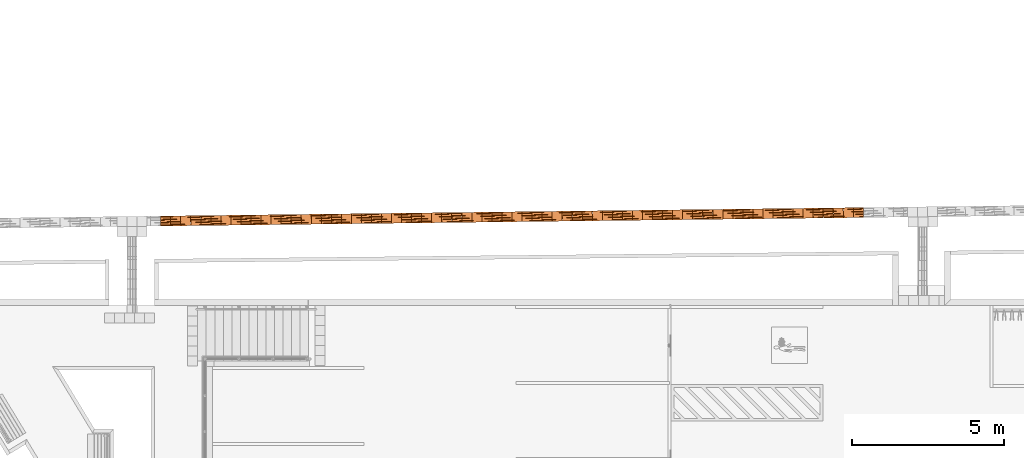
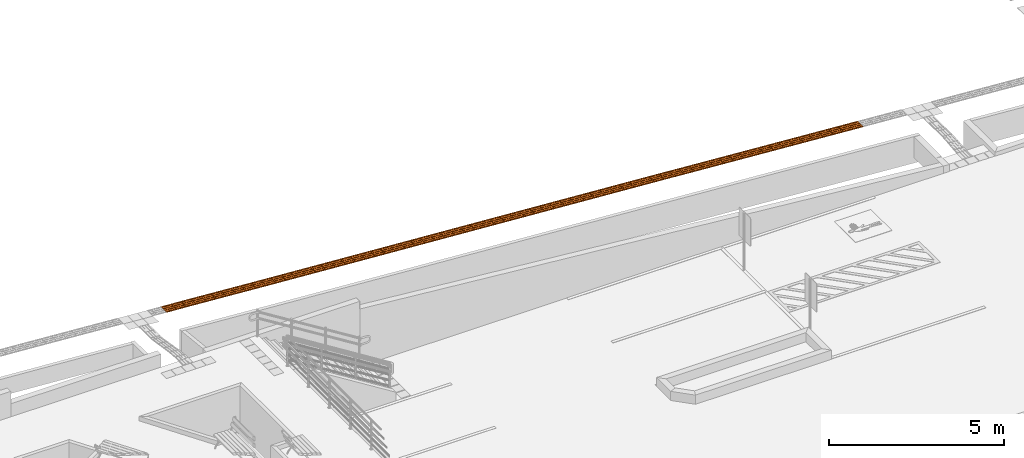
# One storey, part 200 of 237: 70 proxies.
"""IFC2X3 building model written with IfcOpenShell, lengths in millimetres."""

from ifc_helpers import new_model, entity, si_unit, converted_unit, derived_unit, money_unit, direction, frame, origin_with_axes, place, context, subcontext, project, spatial, open_shell, surface_model, source, transform, mapped, type_object, element, save


model = new_model("IFC2X3")

# Units and contexts
model_context = context("Model", 3, precision=0.01, world=origin_with_axes(), true_north=direction((0.0, 1.0)))
body_context = subcontext(model_context, "Body", "Model", "MODEL_VIEW")
ifc_project = project(units=[si_unit("LENGTHUNIT", "METRE", prefix="MILLI"), si_unit("AREAUNIT", "SQUARE_METRE"), si_unit("VOLUMEUNIT", "CUBIC_METRE"), converted_unit("PLANEANGLEUNIT", "DEGREE", entity("IfcPlaneAngleMeasure", 0.0174532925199), si_unit("PLANEANGLEUNIT", "RADIAN"), dimensions=[0, 0, 0, 0, 0, 0, 0]), money_unit("USD"), converted_unit("TIMEUNIT", "Year", entity("IfcTimeMeasure", 31556926.0), si_unit("TIMEUNIT", "SECOND"), dimensions=[0, 0, 1, 0, 0, 0, 0]), si_unit("MASSUNIT", "GRAM", prefix="KILO"), si_unit("THERMODYNAMICTEMPERATUREUNIT", "DEGREE_CELSIUS"), si_unit("LUMINOUSINTENSITYUNIT", "LUMEN"), si_unit("ENERGYUNIT", "JOULE", prefix="MEGA"), derived_unit("THERMALCONDUCTANCEUNIT", [(si_unit("POWERUNIT", "WATT"), 1), (si_unit("LENGTHUNIT", "METRE"), -1), (si_unit("THERMODYNAMICTEMPERATUREUNIT", "KELVIN"), -1)]), derived_unit("SPECIFICHEATCAPACITYUNIT", [(si_unit("ENERGYUNIT", "JOULE"), 1), (si_unit("MASSUNIT", "GRAM", prefix="KILO"), -1), (si_unit("THERMODYNAMICTEMPERATUREUNIT", "KELVIN"), -1)]), derived_unit("MASSDENSITYUNIT", [(si_unit("MASSUNIT", "GRAM", prefix="KILO"), 1), (si_unit("VOLUMEUNIT", "CUBIC_METRE"), -1)])], contexts=[model_context])

# Site, building, storey
site_placement = place(None, origin_with_axes())
site = spatial("IfcSite", under=ifc_project, at=site_placement, Name="Local", CompositionType="ELEMENT")
building_placement = place(site_placement, origin_with_axes())
building = spatial("IfcBuilding", under=site, at=building_placement, Name="Construção", CompositionType="ELEMENT")
storey_placement = place(building_placement, origin_with_axes())
storey = spatial("IfcBuildingStorey", under=building, at=storey_placement, Name="Pavimento Térreo", CompositionType="ELEMENT", Elevation=0.0)

# Proxies
building_element_proxy_type = type_object("IfcBuildingElementProxyType", Name="Piso Direcional 27", PredefinedType="NOTDEFINED")
shared_shape_1 = source(origin_with_axes(), body_context, "Body", "SurfaceModel", [
    surface_model("IfcShellBasedSurfaceModel", [(-0.309064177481, -47.258225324, 4.01664745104), (328.718344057, -47.258225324, 29.3339267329), (328.20688387, -41.665004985, 35.9809450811), (-0.820524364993, -41.665004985, 10.6636657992)], [open_shell([[[0, 1, 2, 3]]])]),
    surface_model("IfcShellBasedSurfaceModel", [(329.741264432, -153.529411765, 16.0398900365), (329.741264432, 176.470588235, 16.0398900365), (328.718344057, 176.470588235, 29.3339267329), (328.718344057, 154.097706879, 29.3339267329), (328.20688387, 148.50448654, 35.9809450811), (328.20688387, 126.131605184, 35.9809450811), (328.718344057, 120.538384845, 29.3339267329), (328.718344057, 70.1994017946, 29.3339267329), (328.20688387, 64.6061814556, 35.9809450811), (328.20688387, 42.2333000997, 35.9809450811), (328.718344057, 36.6400797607, 29.3339267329), (328.718344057, -13.6989032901, 29.3339267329), (328.20688387, -19.2921236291, 35.9809450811), (328.20688387, -41.665004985, 35.9809450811), (328.718344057, -47.258225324, 29.3339267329), (328.718344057, -97.5972083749, 29.3339267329), (328.20688387, -103.190428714, 35.9809450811), (328.20688387, -125.56331007, 35.9809450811), (328.718344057, -131.156530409, 29.3339267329), (328.718344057, -153.529411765, 29.3339267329)], [open_shell([[[0, 1, 2, 3, 4, 5, 6, 7, 8, 9, 10, 11, 12, 13, 14, 15, 16, 17, 18, 19]]])]),
    surface_model("IfcShellBasedSurfaceModel", [(-0.820524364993, -19.2921236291, 10.6636657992), (328.20688387, -19.2921236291, 35.9809450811), (328.718344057, -13.6989032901, 29.3339267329), (-0.309064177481, -13.6989032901, 4.01664745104)], [open_shell([[[0, 1, 2, 3]]])]),
    surface_model("IfcShellBasedSurfaceModel", [(-0.820524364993, -103.190428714, 10.6636657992), (328.20688387, -103.190428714, 35.9809450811), (328.718344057, -97.5972083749, 29.3339267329), (-0.309064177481, -97.5972083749, 4.01664745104)], [open_shell([[[0, 1, 2, 3]]])]),
    surface_model("IfcShellBasedSurfaceModel", [(-0.820524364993, 64.6061814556, 10.6636657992), (328.20688387, 64.6061814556, 35.9809450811), (328.718344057, 70.1994017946, 29.3339267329), (-0.309064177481, 70.1994017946, 4.01664745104)], [open_shell([[[0, 1, 2, 3]]])]),
    surface_model("IfcShellBasedSurfaceModel", [(-0.309064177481, 36.6400797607, 4.01664745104), (328.718344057, 36.6400797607, 29.3339267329), (328.20688387, 42.2333000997, 35.9809450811), (-0.820524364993, 42.2333000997, 10.6636657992)], [open_shell([[[0, 1, 2, 3]]])]),
    surface_model("IfcShellBasedSurfaceModel", [(-0.309064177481, -131.156530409, 4.01664745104), (328.718344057, -131.156530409, 29.3339267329), (328.20688387, -125.56331007, 35.9809450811), (-0.820524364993, -125.56331007, 10.6636657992)], [open_shell([[[0, 1, 2, 3]]])]),
    surface_model("IfcShellBasedSurfaceModel", [(-0.309064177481, 176.470588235, 4.01664745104), (-0.309064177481, 154.097706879, 4.01664745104), (328.718344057, 154.097706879, 29.3339267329), (328.718344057, 176.470588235, 29.3339267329)], [open_shell([[[0, 1, 2, 3]]])]),
    surface_model("IfcShellBasedSurfaceModel", [(-0.309064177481, 120.538384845, 4.01664745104), (328.718344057, 120.538384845, 29.3339267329), (328.20688387, 126.131605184, 35.9809450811), (-0.820524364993, 126.131605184, 10.6636657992)], [open_shell([[[0, 1, 2, 3]]])]),
    surface_model("IfcShellBasedSurfaceModel", [(-0.820524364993, 148.50448654, 10.6636657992), (328.20688387, 148.50448654, 35.9809450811), (328.718344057, 154.097706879, 29.3339267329), (-0.309064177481, 154.097706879, 4.01664745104)], [open_shell([[[0, 1, 2, 3]]])]),
    surface_model("IfcShellBasedSurfaceModel", [(-0.309064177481, 36.6400797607, 4.01664745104), (-0.309064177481, -13.6989032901, 4.01664745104), (328.718344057, -13.6989032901, 29.3339267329), (328.718344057, 36.6400797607, 29.3339267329)], [open_shell([[[0, 1, 2, 3]]])]),
    surface_model("IfcShellBasedSurfaceModel", [(-0.309064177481, 120.538384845, 4.01664745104), (-0.309064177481, 70.1994017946, 4.01664745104), (328.718344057, 70.1994017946, 29.3339267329), (328.718344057, 120.538384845, 29.3339267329)], [open_shell([[[0, 1, 2, 3]]])]),
    surface_model("IfcShellBasedSurfaceModel", [(-0.820524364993, 148.50448654, 10.6636657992), (-0.820524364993, 126.131605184, 10.6636657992), (328.20688387, 126.131605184, 35.9809450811), (328.20688387, 148.50448654, 35.9809450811)], [open_shell([[[0, 1, 2, 3]]])]),
    surface_model("IfcShellBasedSurfaceModel", [(-0.309064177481, 120.538384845, 4.01664745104), (-0.820524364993, 126.131605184, 10.6636657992), (-0.820524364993, 148.50448654, 10.6636657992), (-0.309064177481, 154.097706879, 4.01664745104), (-0.309064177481, 176.470588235, 4.01664745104), (0.713856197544, 176.470588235, -9.27738924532), (0.713856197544, -153.529411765, -9.27738924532), (-0.309064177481, -153.529411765, 4.01664745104), (-0.309064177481, -131.156530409, 4.01664745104), (-0.820524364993, -125.56331007, 10.6636657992), (-0.820524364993, -103.190428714, 10.6636657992), (-0.309064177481, -97.5972083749, 4.01664745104), (-0.309064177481, -47.258225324, 4.01664745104), (-0.820524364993, -41.665004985, 10.6636657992), (-0.820524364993, -19.2921236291, 10.6636657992), (-0.309064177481, -13.6989032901, 4.01664745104), (-0.309064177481, 36.6400797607, 4.01664745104), (-0.820524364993, 42.2333000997, 10.6636657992), (-0.820524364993, 64.6061814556, 10.6636657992), (-0.309064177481, 70.1994017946, 4.01664745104)], [open_shell([[[0, 1, 2, 3, 4, 5, 6, 7, 8, 9, 10, 11, 12, 13, 14, 15, 16, 17, 18, 19]]])]),
    surface_model("IfcShellBasedSurfaceModel", [(328.20688387, -41.665004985, 35.9809450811), (328.20688387, -19.2921236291, 35.9809450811), (-0.820524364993, -19.2921236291, 10.6636657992), (-0.820524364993, -41.665004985, 10.6636657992)], [open_shell([[[0, 1, 2, 3]]])]),
    surface_model("IfcShellBasedSurfaceModel", [(-0.309064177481, -47.258225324, 4.01664745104), (-0.309064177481, -97.5972083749, 4.01664745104), (328.718344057, -97.5972083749, 29.3339267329), (328.718344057, -47.258225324, 29.3339267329)], [open_shell([[[0, 1, 2, 3]]])]),
    surface_model("IfcShellBasedSurfaceModel", [(328.20688387, 42.2333000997, 35.9809450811), (328.20688387, 64.6061814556, 35.9809450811), (-0.820524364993, 64.6061814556, 10.6636657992), (-0.820524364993, 42.2333000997, 10.6636657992)], [open_shell([[[0, 1, 2, 3]]])]),
    surface_model("IfcShellBasedSurfaceModel", [(328.20688387, -125.56331007, 35.9809450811), (328.20688387, -103.190428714, 35.9809450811), (-0.820524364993, -103.190428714, 10.6636657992), (-0.820524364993, -125.56331007, 10.6636657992)], [open_shell([[[0, 1, 2, 3]]])]),
    surface_model("IfcShellBasedSurfaceModel", [(329.741264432, 176.470588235, 16.0398900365), (0.713856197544, 176.470588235, -9.27738924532), (-0.309064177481, 176.470588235, 4.01664745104), (328.718344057, 176.470588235, 29.3339267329)], [open_shell([[[0, 1, 2, 3]]])]),
    surface_model("IfcShellBasedSurfaceModel", [(329.741264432, -153.529411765, 16.0398900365), (0.713856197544, -153.529411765, -9.27738924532), (0.713856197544, 176.470588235, -9.27738924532), (329.741264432, 176.470588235, 16.0398900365)], [open_shell([[[0, 1, 2, 3]]])]),
    surface_model("IfcShellBasedSurfaceModel", [(328.718344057, -153.529411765, 29.3339267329), (328.718344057, -131.156530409, 29.3339267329), (-0.309064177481, -131.156530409, 4.01664745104), (-0.309064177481, -153.529411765, 4.01664745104)], [open_shell([[[0, 1, 2, 3]]])]),
    surface_model("IfcShellBasedSurfaceModel", [(0.713856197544, -153.529411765, -9.27738924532), (329.741264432, -153.529411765, 16.0398900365), (328.718344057, -153.529411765, 29.3339267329), (-0.309064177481, -153.529411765, 4.01664745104)], [open_shell([[[0, 1, 2, 3]]])]),
])
for number, where, z_axis, x_axis, name in (
    (1, (114626.356496, 37438.9714357, -6492.09860001), (0.0, 0.0, 1.0), (-0.999926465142, -0.012127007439, 0.0), "Objeto-0055"),
    (2, (115287.901978, 37446.9945926, -6543.00549409), (0.0, 0.0, 1.0), (-0.999926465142, -0.012127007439, 0.0), "Objeto-0055"),
    (3, (114957.129237, 37442.9830141, -6517.55204705), (0.0, 0.0, 1.0), (-0.999926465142, -0.012127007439, 0.0), "Objeto-0055"),
    (4, (115618.674719, 37451.0061711, -6568.45894113), (0.0, 0.0, 1.0), (-0.999926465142, -0.012127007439, 0.0), "Objeto-0055"),
    (5, (113303.265531, 37422.9251217, -6390.28481185), (0.0, 0.0, 1.0), (-0.999926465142, -0.012127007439, 0.0), "Objeto-0055"),
    (6, (112972.49279, 37418.9135433, -6364.83136481), (0.0, 0.0, 1.0), (-0.999926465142, -0.012127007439, 0.0), "Objeto-0055"),
    (7, (112643.489577, 37414.9234254, -6339.51408553), (0.0, 0.0, 1.0), (-0.999926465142, -0.012127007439, 0.0), "Objeto-0055"),
    (8, (114295.583754, 37434.9598572, -6466.64515297), (0.0, 0.0, 1.0), (-0.999926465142, -0.012127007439, 0.0), "Objeto-0055"),
    (9, (113634.038272, 37426.9367002, -6415.73825889), (0.0, 0.0, 1.0), (-0.999926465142, -0.012127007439, 0.0), "Objeto-0055"),
    (10, (101404.834588, 37278.6221499, -5474.24574373), (0.0, 0.0, 1.0), (-0.999926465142, -0.012127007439, 0.0), "Objeto-0055"),
    (11, (103058.934415, 37298.6829059, -5604.0400957), (0.0, 0.0, 1.0), (-0.999926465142, -0.012127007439, 0.0), "Objeto-0055"),
    (12, (103389.045416, 37302.6864589, -5629.44262091), (0.0, 0.0, 1.0), (-0.999926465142, -0.012127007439, 0.0), "Objeto-0055"),
    (13, (103719.156418, 37306.6900119, -5654.84514612), (0.0, 0.0, 1.0), (-0.999926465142, -0.012127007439, 0.0), "Objeto-0055"),
    (14, (104049.267419, 37310.6935649, -5680.24767132), (0.0, 0.0, 1.0), (-0.999926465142, -0.012127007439, 0.0), "Objeto-0055"),
    (15, (104379.378421, 37314.6971178, -5705.65019653), (0.0, 0.0, 1.0), (-0.999926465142, -0.012127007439, 0.0), "Objeto-0055"),
    (16, (105039.600424, 37322.7042238, -5756.45524694), (0.0, 0.0, 1.0), (-0.999926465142, -0.012127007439, 0.0), "Objeto-0055"),
    (17, (102397.826207, 37290.6650522, -5553.72475305), (0.0, 0.0, 1.0), (-0.999926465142, -0.012127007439, 0.0), "Objeto-0055"),
    (18, (99089.5924239, 37250.5431261, -5293.29395499), (0.0, 0.0, 1.0), (-0.999926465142, -0.012127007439, 0.0), "Objeto-0055"),
    (19, (99420.7893066, 37254.5598486, -5317.19174392), (0.0, 0.0, 1.0), (-0.999926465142, -0.012127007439, 0.0), "Objeto-0055"),
    (20, (99749.848555, 37258.550646, -5341.78072821), (0.0, 0.0, 1.0), (-0.999926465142, -0.012127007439, 0.0), "Objeto-0055"),
    (21, (100080.845762, 37262.5649468, -5368.27373131), (0.0, 0.0, 1.0), (-0.999926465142, -0.012127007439, 0.0), "Objeto-0055"),
    (22, (100411.842968, 37266.5792475, -5394.76673442), (0.0, 0.0, 1.0), (-0.999926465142, -0.012127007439, 0.0), "Objeto-0055"),
    (23, (100742.840175, 37270.5935483, -5421.25973752), (0.0, 0.0, 1.0), (-0.999926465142, -0.012127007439, 0.0), "Objeto-0055"),
    (24, (101073.837381, 37274.6078491, -5447.75274063), (0.0, 0.0, 1.0), (-0.999926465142, -0.012127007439, 0.0), "Objeto-0055"),
    (25, (109335.762166, 37374.8076406, -6084.97961512), (0.0, 0.0, 1.0), (-0.999926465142, -0.012127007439, 0.0), "Objeto-0055"),
    (26, (112312.716836, 37410.9118469, -6314.06063849), (0.0, 0.0, 1.0), (-0.999926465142, -0.012127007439, 0.0), "Objeto-0055"),
    (27, (111651.171354, 37402.88869, -6263.15374441), (0.0, 0.0, 1.0), (-0.999926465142, -0.012127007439, 0.0), "Objeto-0055"),
    (28, (111981.944095, 37406.9002685, -6288.60719145), (0.0, 0.0, 1.0), (-0.999926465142, -0.012127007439, 0.0), "Objeto-0055"),
    (29, (106029.933428, 37334.7148827, -5832.66282257), (0.0, 0.0, 1.0), (-0.999926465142, -0.012127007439, 0.0), "Objeto-0055"),
    (30, (113964.811013, 37430.9482787, -6441.19170593), (0.0, 0.0, 1.0), (-0.999926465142, -0.012127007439, 0.0), "Objeto-0055"),
    (31, (111320.398613, 37398.8771115, -6237.70029737), (0.0, 0.0, 1.0), (-0.999926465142, -0.012127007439, 0.0), "Objeto-0055"),
    (32, (110989.625872, 37394.865533, -6212.24685033), (0.0, 0.0, 1.0), (-0.999926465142, -0.012127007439, 0.0), "Objeto-0055"),
    (33, (110658.85313, 37390.8539545, -6186.79340329), (0.0, 0.0, 1.0), (-0.999926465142, -0.012127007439, 0.0), "Objeto-0055"),
    (34, (110328.080389, 37386.842376, -6161.33995624), (0.0, 0.0, 1.0), (-0.999926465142, -0.012127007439, 0.0), "Objeto-0055"),
    (35, (101735.831794, 37282.6364506, -5500.73874684), (0.0, 0.0, 1.0), (-0.999926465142, -0.012127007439, 0.0), "Objeto-0055"),
    (36, (109666.534907, 37378.8192191, -6110.43306216), (0.0, 0.0, 1.0), (-0.999926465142, -0.012127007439, 0.0), "Objeto-0055"),
    (37, (109997.307648, 37382.8307976, -6135.8865092), (0.0, 0.0, 1.0), (-0.999926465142, -0.012127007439, 0.0), "Objeto-0055"),
    (38, (102066.829001, 37286.6507514, -5527.23174994), (0.0, 0.0, 1.0), (-0.999926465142, -0.012127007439, 0.0), "Objeto-0055"),
    (39, (108674.596419, 37366.789089, -6034.51625661), (0.0, 0.0, 1.0), (-0.999926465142, -0.012127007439, 0.0), "Objeto-0055"),
    (40, (104709.489422, 37318.7006708, -5731.05272174), (0.0, 0.0, 1.0), (-0.999926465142, -0.012127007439, 0.0), "Objeto-0055"),
    (41, (109005.179292, 37370.7983648, -6059.74793587), (0.0, 0.0, 1.0), (-0.999926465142, -0.012127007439, 0.0), "Objeto-0055"),
    (42, (105369.711425, 37326.7077767, -5781.85777215), (0.0, 0.0, 1.0), (-0.999926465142, -0.012127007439, 0.0), "Objeto-0055"),
    (43, (108344.013545, 37362.7798132, -6009.28457736), (0.0, 0.0, 1.0), (-0.999926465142, -0.012127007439, 0.0), "Objeto-0055"),
    (44, (108013.430671, 37358.7705374, -5984.0528981), (0.0, 0.0, 1.0), (-0.999926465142, -0.012127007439, 0.0), "Objeto-0055"),
    (45, (107682.847797, 37354.7612616, -5958.82121884), (0.0, 0.0, 1.0), (-0.999926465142, -0.012127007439, 0.0), "Objeto-0055"),
    (46, (107352.264923, 37350.7519859, -5933.58953959), (0.0, 0.0, 1.0), (-0.999926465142, -0.012127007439, 0.0), "Objeto-0055"),
    (47, (107021.68205, 37346.7427101, -5908.35786033), (0.0, 0.0, 1.0), (-0.999926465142, -0.012127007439, 0.0), "Objeto-0055"),
    (48, (106691.099176, 37342.7334343, -5883.12618108), (0.0, 0.0, 1.0), (-0.999926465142, -0.012127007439, 0.0), "Objeto-0055"),
    (49, (106360.516302, 37338.7241585, -5857.89450182), (0.0, 0.0, 1.0), (-0.999926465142, -0.012127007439, 0.0), "Objeto-0055"),
    (50, (105699.822427, 37330.7113297, -5807.26029736), (0.0, 0.0, 1.0), (-0.999926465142, -0.012127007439, 0.0), "Objeto-0055"),
    (51, (102728.823414, 37294.679353, -5578.6375705), (0.0, 0.0, 1.0), (-0.999926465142, -0.012127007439, 0.0), "Objeto-0055"),
):
    element("IfcBuildingElementProxy", number, at=place(storey_placement, frame(where, z_axis=z_axis, x_axis=x_axis)), inside=storey, type_object=building_element_proxy_type, Name=name, context=body_context, shape_type="MappedRepresentation", body=[
        mapped(shared_shape_1, transform((0.0, 0.0, 0.0))),
    ])
shared_shape_2 = source(origin_with_axes(), body_context, "Body", "SurfaceModel", [
    surface_model("IfcShellBasedSurfaceModel", [(-0.316074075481, -47.258225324, 4.01610191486), (328.666646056, -47.258225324, 29.907603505), (328.143585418, -41.665004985, 36.5537190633), (-0.839134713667, -41.665004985, 10.6622174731)], [open_shell([[[0, 1, 2, 3]]])]),
    surface_model("IfcShellBasedSurfaceModel", [(329.712767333, -153.529411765, 16.6153723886), (329.712767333, 176.470588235, 16.6153723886), (328.666646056, 176.470588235, 29.907603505), (328.666646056, 154.097706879, 29.907603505), (328.143585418, 148.50448654, 36.5537190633), (328.143585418, 126.131605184, 36.5537190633), (328.666646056, 120.538384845, 29.907603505), (328.666646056, 70.1994017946, 29.907603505), (328.143585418, 64.6061814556, 36.5537190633), (328.143585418, 42.2333000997, 36.5537190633), (328.666646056, 36.6400797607, 29.907603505), (328.666646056, -13.6989032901, 29.907603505), (328.143585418, -19.2921236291, 36.5537190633), (328.143585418, -41.665004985, 36.5537190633), (328.666646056, -47.258225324, 29.907603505), (328.666646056, -97.5972083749, 29.907603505), (328.143585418, -103.190428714, 36.5537190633), (328.143585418, -125.56331007, 36.5537190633), (328.666646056, -131.156530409, 29.907603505), (328.666646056, -153.529411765, 29.907603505)], [open_shell([[[0, 1, 2, 3, 4, 5, 6, 7, 8, 9, 10, 11, 12, 13, 14, 15, 16, 17, 18, 19]]])]),
    surface_model("IfcShellBasedSurfaceModel", [(-0.839134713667, -19.2921236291, 10.6622174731), (328.143585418, -19.2921236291, 36.5537190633), (328.666646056, -13.6989032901, 29.907603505), (-0.316074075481, -13.6989032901, 4.01610191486)], [open_shell([[[0, 1, 2, 3]]])]),
    surface_model("IfcShellBasedSurfaceModel", [(-0.839134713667, -103.190428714, 10.6622174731), (328.143585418, -103.190428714, 36.5537190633), (328.666646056, -97.5972083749, 29.907603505), (-0.316074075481, -97.5972083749, 4.01610191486)], [open_shell([[[0, 1, 2, 3]]])]),
    surface_model("IfcShellBasedSurfaceModel", [(-0.839134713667, 64.6061814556, 10.6622174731), (328.143585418, 64.6061814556, 36.5537190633), (328.666646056, 70.1994017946, 29.907603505), (-0.316074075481, 70.1994017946, 4.01610191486)], [open_shell([[[0, 1, 2, 3]]])]),
    surface_model("IfcShellBasedSurfaceModel", [(-0.316074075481, 36.6400797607, 4.01610191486), (328.666646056, 36.6400797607, 29.907603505), (328.143585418, 42.2333000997, 36.5537190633), (-0.839134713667, 42.2333000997, 10.6622174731)], [open_shell([[[0, 1, 2, 3]]])]),
    surface_model("IfcShellBasedSurfaceModel", [(-0.316074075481, -131.156530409, 4.01610191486), (328.666646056, -131.156530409, 29.907603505), (328.143585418, -125.56331007, 36.5537190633), (-0.839134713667, -125.56331007, 10.6622174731)], [open_shell([[[0, 1, 2, 3]]])]),
    surface_model("IfcShellBasedSurfaceModel", [(-0.316074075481, 176.470588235, 4.01610191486), (-0.316074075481, 154.097706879, 4.01610191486), (328.666646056, 154.097706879, 29.907603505), (328.666646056, 176.470588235, 29.907603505)], [open_shell([[[0, 1, 2, 3]]])]),
    surface_model("IfcShellBasedSurfaceModel", [(-0.316074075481, 120.538384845, 4.01610191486), (328.666646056, 120.538384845, 29.907603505), (328.143585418, 126.131605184, 36.5537190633), (-0.839134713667, 126.131605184, 10.6622174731)], [open_shell([[[0, 1, 2, 3]]])]),
    surface_model("IfcShellBasedSurfaceModel", [(-0.839134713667, 148.50448654, 10.6622174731), (328.143585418, 148.50448654, 36.5537190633), (328.666646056, 154.097706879, 29.907603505), (-0.316074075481, 154.097706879, 4.01610191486)], [open_shell([[[0, 1, 2, 3]]])]),
    surface_model("IfcShellBasedSurfaceModel", [(-0.316074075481, 36.6400797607, 4.01610191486), (-0.316074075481, -13.6989032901, 4.01610191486), (328.666646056, -13.6989032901, 29.907603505), (328.666646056, 36.6400797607, 29.907603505)], [open_shell([[[0, 1, 2, 3]]])]),
    surface_model("IfcShellBasedSurfaceModel", [(-0.316074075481, 120.538384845, 4.01610191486), (-0.316074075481, 70.1994017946, 4.01610191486), (328.666646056, 70.1994017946, 29.907603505), (328.666646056, 120.538384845, 29.907603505)], [open_shell([[[0, 1, 2, 3]]])]),
    surface_model("IfcShellBasedSurfaceModel", [(-0.839134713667, 148.50448654, 10.6622174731), (-0.839134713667, 126.131605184, 10.6622174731), (328.143585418, 126.131605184, 36.5537190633), (328.143585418, 148.50448654, 36.5537190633)], [open_shell([[[0, 1, 2, 3]]])]),
    surface_model("IfcShellBasedSurfaceModel", [(-0.316074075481, 120.538384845, 4.01610191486), (-0.839134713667, 126.131605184, 10.6622174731), (-0.839134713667, 148.50448654, 10.6622174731), (-0.316074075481, 154.097706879, 4.01610191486), (-0.316074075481, 176.470588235, 4.01610191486), (0.73004720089, 176.470588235, -9.27612920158), (0.73004720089, -153.529411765, -9.27612920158), (-0.316074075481, -153.529411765, 4.01610191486), (-0.316074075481, -131.156530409, 4.01610191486), (-0.839134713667, -125.56331007, 10.6622174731), (-0.839134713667, -103.190428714, 10.6622174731), (-0.316074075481, -97.5972083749, 4.01610191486), (-0.316074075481, -47.258225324, 4.01610191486), (-0.839134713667, -41.665004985, 10.6622174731), (-0.839134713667, -19.2921236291, 10.6622174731), (-0.316074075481, -13.6989032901, 4.01610191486), (-0.316074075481, 36.6400797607, 4.01610191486), (-0.839134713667, 42.2333000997, 10.6622174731), (-0.839134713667, 64.6061814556, 10.6622174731), (-0.316074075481, 70.1994017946, 4.01610191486)], [open_shell([[[0, 1, 2, 3, 4, 5, 6, 7, 8, 9, 10, 11, 12, 13, 14, 15, 16, 17, 18, 19]]])]),
    surface_model("IfcShellBasedSurfaceModel", [(328.143585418, -41.665004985, 36.5537190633), (328.143585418, -19.2921236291, 36.5537190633), (-0.839134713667, -19.2921236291, 10.6622174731), (-0.839134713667, -41.665004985, 10.6622174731)], [open_shell([[[0, 1, 2, 3]]])]),
    surface_model("IfcShellBasedSurfaceModel", [(-0.316074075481, -47.258225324, 4.01610191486), (-0.316074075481, -97.5972083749, 4.01610191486), (328.666646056, -97.5972083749, 29.907603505), (328.666646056, -47.258225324, 29.907603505)], [open_shell([[[0, 1, 2, 3]]])]),
    surface_model("IfcShellBasedSurfaceModel", [(328.143585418, 42.2333000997, 36.5537190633), (328.143585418, 64.6061814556, 36.5537190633), (-0.839134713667, 64.6061814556, 10.6622174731), (-0.839134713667, 42.2333000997, 10.6622174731)], [open_shell([[[0, 1, 2, 3]]])]),
    surface_model("IfcShellBasedSurfaceModel", [(328.143585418, -125.56331007, 36.5537190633), (328.143585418, -103.190428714, 36.5537190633), (-0.839134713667, -103.190428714, 10.6622174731), (-0.839134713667, -125.56331007, 10.6622174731)], [open_shell([[[0, 1, 2, 3]]])]),
    surface_model("IfcShellBasedSurfaceModel", [(329.712767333, 176.470588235, 16.6153723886), (0.73004720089, 176.470588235, -9.27612920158), (-0.316074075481, 176.470588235, 4.01610191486), (328.666646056, 176.470588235, 29.907603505)], [open_shell([[[0, 1, 2, 3]]])]),
    surface_model("IfcShellBasedSurfaceModel", [(329.712767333, -153.529411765, 16.6153723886), (0.73004720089, -153.529411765, -9.27612920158), (0.73004720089, 176.470588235, -9.27612920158), (329.712767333, 176.470588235, 16.6153723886)], [open_shell([[[0, 1, 2, 3]]])]),
    surface_model("IfcShellBasedSurfaceModel", [(328.666646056, -153.529411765, 29.907603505), (328.666646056, -131.156530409, 29.907603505), (-0.316074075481, -131.156530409, 4.01610191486), (-0.316074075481, -153.529411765, 4.01610191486)], [open_shell([[[0, 1, 2, 3]]])]),
    surface_model("IfcShellBasedSurfaceModel", [(0.73004720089, -153.529411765, -9.27612920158), (329.712767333, -153.529411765, 16.6153723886), (328.666646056, -153.529411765, 29.907603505), (-0.316074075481, -153.529411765, 4.01610191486)], [open_shell([[[0, 1, 2, 3]]])]),
])
for number, where, z_axis, x_axis, name in (
    (52, (120575.831988, 37511.1260751, -6964.05081068), (0.0, 0.0, 1.0), (-0.999926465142, -0.012127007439, 0.0), "Objeto-0055"),
    (53, (120245.094275, 37507.1149214, -6937.82402992), (0.0, 0.0, 1.0), (-0.999926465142, -0.012127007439, 0.0), "Objeto-0055"),
    (54, (118593.184891, 37487.0807308, -6807.02540528), (0.0, 0.0, 1.0), (-0.999926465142, -0.012127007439, 0.0), "Objeto-0055"),
    (55, (121898.782843, 37527.1706898, -7068.95793373), (0.0, 0.0, 1.0), (-0.999926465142, -0.012127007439, 0.0), "Objeto-0055"),
    (56, (118923.922605, 37491.0918845, -6833.25218604), (0.0, 0.0, 1.0), (-0.999926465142, -0.012127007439, 0.0), "Objeto-0055"),
    (57, (120906.569702, 37515.1372288, -6990.27759145), (0.0, 0.0, 1.0), (-0.999926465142, -0.012127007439, 0.0), "Objeto-0055"),
    (58, (115947.283181, 37454.9915014, -6597.21115919), (0.0, 0.0, 1.0), (-0.999926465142, -0.012127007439, 0.0), "Objeto-0055"),
    (59, (119254.660318, 37495.1030382, -6859.47896681), (0.0, 0.0, 1.0), (-0.999926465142, -0.012127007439, 0.0), "Objeto-0055"),
    (60, (119914.356561, 37503.1037678, -6911.59724916), (0.0, 0.0, 1.0), (-0.999926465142, -0.012127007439, 0.0), "Objeto-0055"),
    (61, (119583.618847, 37499.0926141, -6885.3704684), (0.0, 0.0, 1.0), (-0.999926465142, -0.012127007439, 0.0), "Objeto-0055"),
    (62, (117600.971749, 37475.0472698, -6728.345063), (0.0, 0.0, 1.0), (-0.999926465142, -0.012127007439, 0.0), "Objeto-0055"),
    (63, (117270.234036, 37471.0361161, -6702.11828223), (0.0, 0.0, 1.0), (-0.999926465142, -0.012127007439, 0.0), "Objeto-0055"),
    (64, (116939.496322, 37467.0249625, -6675.89150147), (0.0, 0.0, 1.0), (-0.999926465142, -0.012127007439, 0.0), "Objeto-0055"),
    (65, (116608.758608, 37463.0138088, -6649.66472071), (0.0, 0.0, 1.0), (-0.999926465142, -0.012127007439, 0.0), "Objeto-0055"),
    (66, (116278.020894, 37459.0026551, -6623.43793995), (0.0, 0.0, 1.0), (-0.999926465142, -0.012127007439, 0.0), "Objeto-0055"),
    (67, (117931.709463, 37479.0584235, -6754.57184376), (0.0, 0.0, 1.0), (-0.999926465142, -0.012127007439, 0.0), "Objeto-0055"),
    (68, (118262.447177, 37483.0695772, -6780.79862452), (0.0, 0.0, 1.0), (-0.999926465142, -0.012127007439, 0.0), "Objeto-0055"),
    (69, (121237.307416, 37519.1483825, -7016.50437221), (0.0, 0.0, 1.0), (-0.999926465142, -0.012127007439, 0.0), "Objeto-0055"),
    (70, (121568.04513, 37523.1595361, -7042.73115297), (0.0, 0.0, 1.0), (-0.999926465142, -0.012127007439, 0.0), "Objeto-0055"),
):
    element("IfcBuildingElementProxy", number, at=place(storey_placement, frame(where, z_axis=z_axis, x_axis=x_axis)), inside=storey, type_object=building_element_proxy_type, Name=name, context=body_context, shape_type="MappedRepresentation", body=[
        mapped(shared_shape_2, transform((0.0, 0.0, 0.0))),
    ])

save(model, "model.ifc")
